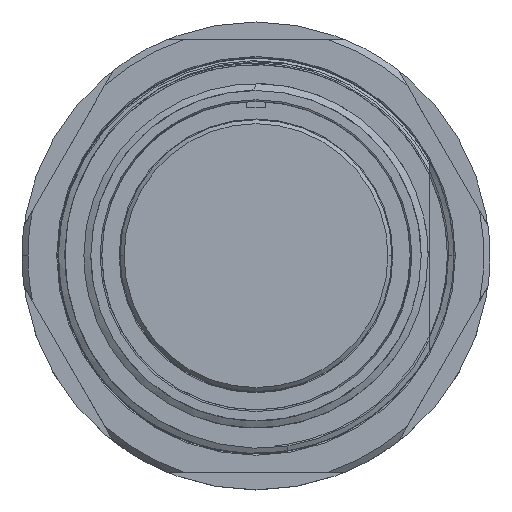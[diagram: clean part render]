
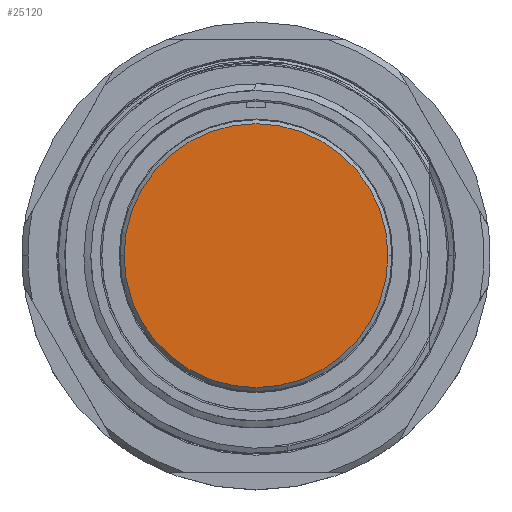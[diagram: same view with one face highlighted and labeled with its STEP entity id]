
A CAD part, top view. The second image highlights one B-rep face of the part: STEP entity #25120.
In plain terms, the highlighted planar face has unit normal (0, 0, 1).
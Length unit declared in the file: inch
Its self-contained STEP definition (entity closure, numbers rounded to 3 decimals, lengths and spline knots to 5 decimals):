
#3203 = ORIENTED_EDGE ( 'NONE', *, *, #106351, .T. ) ;
#3302 = CARTESIAN_POINT ( 'NONE',  ( 0., 0., -0.018 ) ) ;
#7803 = DIRECTION ( 'NONE',  ( 1., 0., 0. ) ) ;
#8490 = CIRCLE ( 'NONE', #18565, 0.667 ) ;
#18565 = AXIS2_PLACEMENT_3D ( 'NONE', #28737, #57643, #85971 ) ;
#20149 = VERTEX_POINT ( 'NONE', #86699 ) ;
#23492 = FACE_OUTER_BOUND ( 'NONE', #69967, .T. ) ;
#25120 = ADVANCED_FACE ( 'NONE', ( #23492 ), #79474, .T. ) ;
#28737 = CARTESIAN_POINT ( 'NONE',  ( 0., 0., -0.018 ) ) ;
#31084 = DIRECTION ( 'NONE',  ( 1., 0., 0. ) ) ;
#39215 = CARTESIAN_POINT ( 'NONE',  ( 0., 0., -0.018 ) ) ;
#43779 = CARTESIAN_POINT ( 'NONE',  ( 0.667, 0., -0.018 ) ) ;
#55192 = AXIS2_PLACEMENT_3D ( 'NONE', #39215, #77566, #7803 ) ;
#57643 = DIRECTION ( 'NONE',  ( 0., 0., 1. ) ) ;
#67189 = CIRCLE ( 'NONE', #55192, 0.667 ) ;
#69967 = EDGE_LOOP ( 'NONE', ( #3203, #93217 ) ) ;
#72666 = EDGE_CURVE ( 'NONE', #80602, #20149, #8490, .T. ) ;
#77566 = DIRECTION ( 'NONE',  ( 0., 0., 1. ) ) ;
#79474 = PLANE ( 'NONE',  #124305 ) ;
#80602 = VERTEX_POINT ( 'NONE', #43779 ) ;
#85971 = DIRECTION ( 'NONE',  ( 1., 0., 0. ) ) ;
#86699 = CARTESIAN_POINT ( 'NONE',  ( -0.667, 0., -0.018 ) ) ;
#93217 = ORIENTED_EDGE ( 'NONE', *, *, #72666, .T. ) ;
#106351 = EDGE_CURVE ( 'NONE', #20149, #80602, #67189, .T. ) ;
#119134 = DIRECTION ( 'NONE',  ( 0., 0., 1. ) ) ;
#124305 = AXIS2_PLACEMENT_3D ( 'NONE', #3302, #119134, #31084 ) ;
